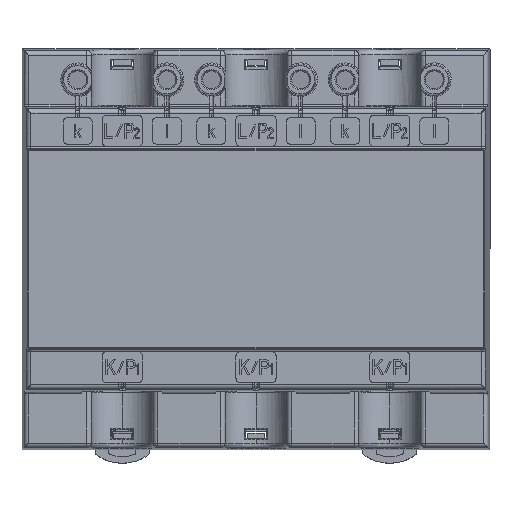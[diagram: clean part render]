
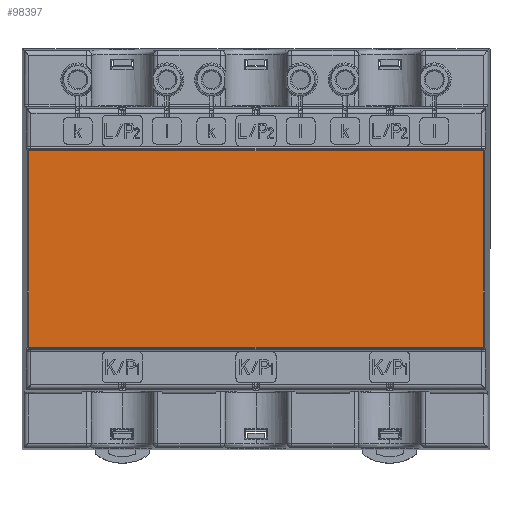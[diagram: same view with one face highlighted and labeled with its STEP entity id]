
A CAD part, top view. The second image highlights one B-rep face of the part: STEP entity #98397.
In plain terms, the highlighted planar face has unit normal (0, 0, 1).
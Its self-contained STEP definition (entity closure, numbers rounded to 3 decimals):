
#28469 = CARTESIAN_POINT ( 'NONE',  ( -51.014, 22.043, 49.3 ) ) ;
#30600 = DIRECTION ( 'NONE',  ( -1., 0., 0. ) ) ;
#30602 = VECTOR ( 'NONE', #30600, 1000. ) ;
#30607 = CARTESIAN_POINT ( 'NONE',  ( -60.737, 22.043, 49.3 ) ) ;
#30609 = LINE ( 'NONE', #30607, #30602 ) ;
#63561 = CARTESIAN_POINT ( 'NONE',  ( 51.014, -22.043, 49.3 ) ) ;
#64302 = CARTESIAN_POINT ( 'NONE',  ( -51.014, -22.043, 49.3 ) ) ;
#65706 = CARTESIAN_POINT ( 'NONE',  ( 51.014, 22.043, 49.3 ) ) ;
#66378 = AXIS2_PLACEMENT_3D ( 'NONE', #66420, #66543, #66542 ) ;
#66420 = CARTESIAN_POINT ( 'NONE',  ( -60.737, -27.41, 49.3 ) ) ;
#66430 = PLANE ( 'NONE',  #66378 ) ;
#66433 = FACE_OUTER_BOUND ( 'NONE', #99392, .T. ) ;
#66542 = DIRECTION ( 'NONE',  ( 1., 0., 0. ) ) ;
#66543 = DIRECTION ( 'NONE',  ( 0., 0., 1. ) ) ;
#67402 = DIRECTION ( 'NONE',  ( 0., -1., 0. ) ) ;
#67403 = VECTOR ( 'NONE', #67402, 1000. ) ;
#67415 = CARTESIAN_POINT ( 'NONE',  ( -51.014, -27.41, 49.3 ) ) ;
#67417 = LINE ( 'NONE', #67415, #67403 ) ;
#72218 = DIRECTION ( 'NONE',  ( 1., 0., 0. ) ) ;
#72219 = VECTOR ( 'NONE', #72218, 1000. ) ;
#72221 = CARTESIAN_POINT ( 'NONE',  ( -60.737, -22.043, 49.3 ) ) ;
#72222 = LINE ( 'NONE', #72221, #72219 ) ;
#90048 = VERTEX_POINT ( 'NONE', #28469 ) ;
#90724 = EDGE_CURVE ( 'NONE', #98268, #90048, #30609, .T. ) ;
#92770 = ORIENTED_EDGE ( 'NONE', *, *, #143608, .T. ) ;
#97851 = VERTEX_POINT ( 'NONE', #63561 ) ;
#98052 = VERTEX_POINT ( 'NONE', #64302 ) ;
#98268 = VERTEX_POINT ( 'NONE', #65706 ) ;
#98397 = ADVANCED_FACE ( 'NONE', ( #66433 ), #66430, .T. ) ;
#98588 = EDGE_CURVE ( 'NONE', #90048, #98052, #67417, .T. ) ;
#98792 = ORIENTED_EDGE ( 'NONE', *, *, #90724, .T. ) ;
#99188 = ORIENTED_EDGE ( 'NONE', *, *, #99537, .T. ) ;
#99392 = EDGE_LOOP ( 'NONE', ( #92770, #98792, #99781, #99188 ) ) ;
#99537 = EDGE_CURVE ( 'NONE', #98052, #97851, #72222, .T. ) ;
#99781 = ORIENTED_EDGE ( 'NONE', *, *, #98588, .T. ) ;
#122193 = DIRECTION ( 'NONE',  ( 0., 1., 0. ) ) ;
#122194 = VECTOR ( 'NONE', #122193, 1000. ) ;
#122201 = CARTESIAN_POINT ( 'NONE',  ( 51.014, -27.41, 49.3 ) ) ;
#122202 = LINE ( 'NONE', #122201, #122194 ) ;
#143608 = EDGE_CURVE ( 'NONE', #97851, #98268, #122202, .T. ) ;
